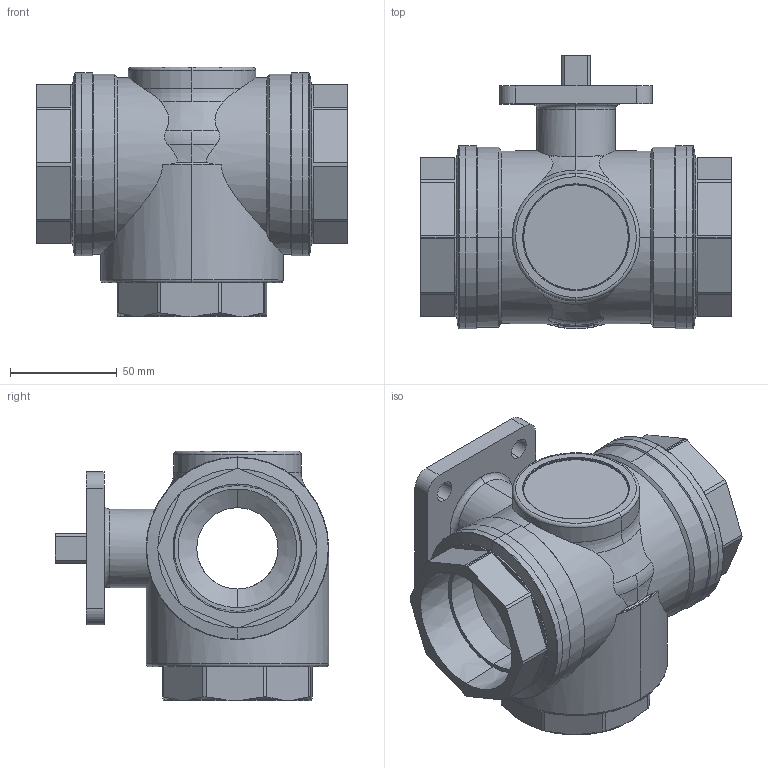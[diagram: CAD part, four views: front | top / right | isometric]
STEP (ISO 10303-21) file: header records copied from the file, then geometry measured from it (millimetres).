
FILE_DESCRIPTION (( 'STEP AP203' ), '1' );
FILE_NAME ('b2s-16tt.STEP', '2021-06-29T17:16:38', ( 'Owner' ), ( '' ), 'SwSTEP 2.0', 'SolidWorks 2017', '' );
FILE_SCHEMA (( 'CONFIG_CONTROL_DESIGN' ));
Length unit declared in the file: inch
Products named in the file (2): b2s-16tt
Bounding box: 145.54 x 128.14 x 116.84 mm (x, y, z)
Volume: 611791.5 mm3; surface area: 97739.6 mm2
Topology: 1 solids, 2 shells, 235 faces, 611 edges, 389 vertices
Faces by surface type: cylinder 89, plane 81, cone 39, torus 25, sphere 1
Entity records: 7955 total; most frequent: CARTESIAN_POINT 1931, DIRECTION 1282, ORIENTED_EDGE 1216, EDGE_CURVE 608, AXIS2_PLACEMENT_3D 504, VERTEX_POINT 389, VECTOR 274, LINE 274
